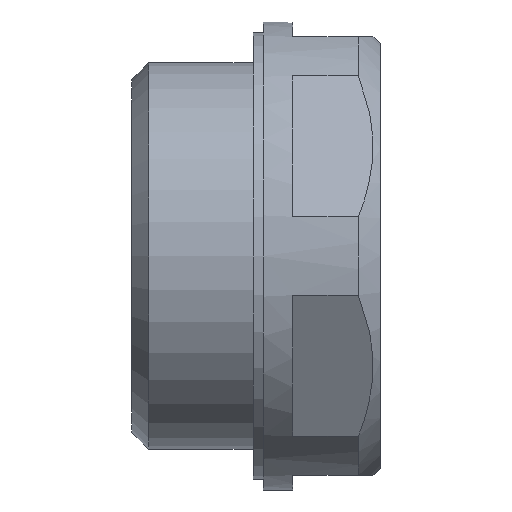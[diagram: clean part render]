
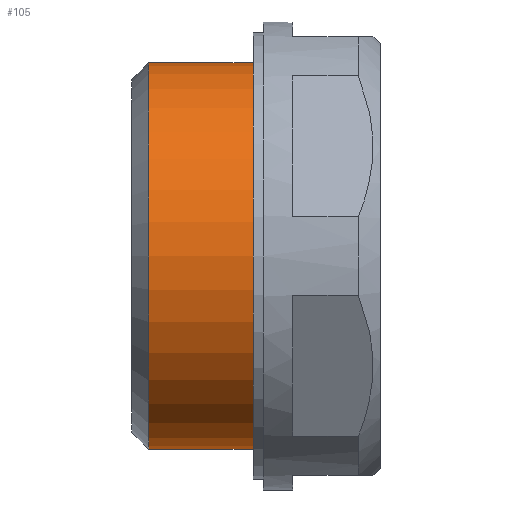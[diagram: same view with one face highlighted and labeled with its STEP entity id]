
A CAD part, front view. The second image highlights one B-rep face of the part: STEP entity #105.
In plain terms, the highlighted cylindrical face has radius 13.22 mm (diameter 26.441 mm), a full revolution.
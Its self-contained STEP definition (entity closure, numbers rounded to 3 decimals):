
#105 = ADVANCED_FACE( '', ( #184, #185 ), #186, .T. );
#184 = FACE_OUTER_BOUND( '', #266, .T. );
#185 = FACE_OUTER_BOUND( '', #267, .T. );
#186 = CYLINDRICAL_SURFACE( '', #268, 13.221 );
#266 = EDGE_LOOP( '', ( #443 ) );
#267 = EDGE_LOOP( '', ( #444 ) );
#268 = AXIS2_PLACEMENT_3D( '', #445, #446, #447 );
#443 = ORIENTED_EDGE( '', *, *, #529, .F. );
#444 = ORIENTED_EDGE( '', *, *, #513, .T. );
#445 = CARTESIAN_POINT( '', ( 17., 0., 0. ) );
#446 = DIRECTION( '', ( -1., 0., 0. ) );
#447 = DIRECTION( '', ( 0., 0., -1. ) );
#513 = EDGE_CURVE( '', #600, #600, #601, .T. );
#529 = EDGE_CURVE( '', #624, #624, #625, .T. );
#600 = VERTEX_POINT( '', #762 );
#601 = CIRCLE( '', #763, 13.221 );
#624 = VERTEX_POINT( '', #792 );
#625 = CIRCLE( '', #793, 13.221 );
#762 = CARTESIAN_POINT( '', ( 1.162, 0., -13.221 ) );
#763 = AXIS2_PLACEMENT_3D( '', #863, #864, #865 );
#792 = CARTESIAN_POINT( '', ( 8.3, 0., -13.221 ) );
#793 = AXIS2_PLACEMENT_3D( '', #899, #900, #901 );
#863 = CARTESIAN_POINT( '', ( 1.162, 0., 0. ) );
#864 = DIRECTION( '', ( 1., 0., 0. ) );
#865 = DIRECTION( '', ( 0., 0., -1. ) );
#899 = CARTESIAN_POINT( '', ( 8.3, 0., 0. ) );
#900 = DIRECTION( '', ( 1., 0., 0. ) );
#901 = DIRECTION( '', ( 0., 0., -1. ) );
